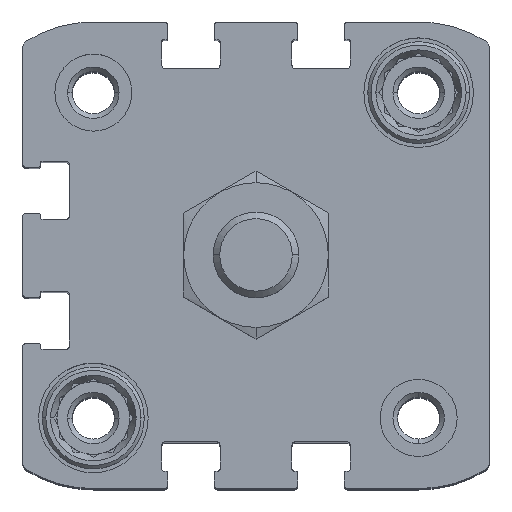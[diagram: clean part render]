
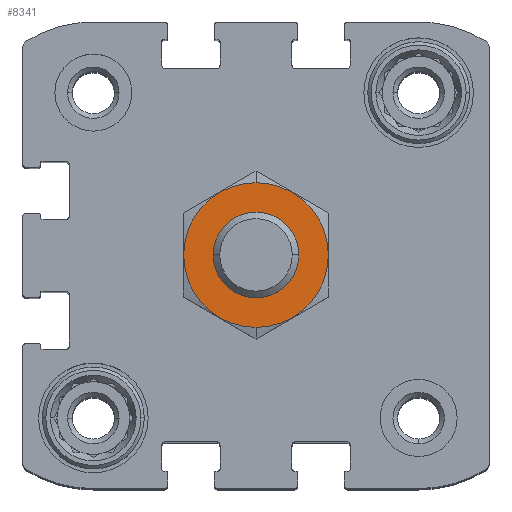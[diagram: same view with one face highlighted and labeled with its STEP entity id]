
A CAD part, top view. The second image highlights one B-rep face of the part: STEP entity #8341.
In plain terms, the highlighted planar face has unit normal (0, 0, 1).
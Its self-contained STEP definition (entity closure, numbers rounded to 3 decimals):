
#120 = FACE_OUTER_BOUND ( 'NONE', #10984, .T. ) ;
#198 = ORIENTED_EDGE ( 'NONE', *, *, #2175, .F. ) ;
#1475 = VERTEX_POINT ( 'NONE', #2073 ) ;
#1834 = EDGE_CURVE ( 'NONE', #2278, #5603, #12253, .T. ) ;
#2073 = CARTESIAN_POINT ( 'NONE',  ( 0., -8.45, 15.8 ) ) ;
#2175 = EDGE_CURVE ( 'NONE', #1475, #16411, #5668, .T. ) ;
#2248 = DIRECTION ( 'NONE',  ( 0., 1., 0. ) ) ;
#2278 = VERTEX_POINT ( 'NONE', #3177 ) ;
#2750 = DIRECTION ( 'NONE',  ( 0., 1., 0. ) ) ;
#3177 = CARTESIAN_POINT ( 'NONE',  ( 0., -5., 15.8 ) ) ;
#3284 = DIRECTION ( 'NONE',  ( 0., 1., 0. ) ) ;
#4367 = CARTESIAN_POINT ( 'NONE',  ( 0., 5., 15.8 ) ) ;
#4686 = AXIS2_PLACEMENT_3D ( 'NONE', #7429, #15240, #3284 ) ;
#5005 = DIRECTION ( 'NONE',  ( 0., 0., -1. ) ) ;
#5197 = EDGE_LOOP ( 'NONE', ( #13347, #13020 ) ) ;
#5603 = VERTEX_POINT ( 'NONE', #4367 ) ;
#5668 = CIRCLE ( 'NONE', #11270, 8.45 ) ;
#6287 = AXIS2_PLACEMENT_3D ( 'NONE', #10932, #8053, #2750 ) ;
#6622 = EDGE_CURVE ( 'NONE', #5603, #2278, #16954, .T. ) ;
#7429 = CARTESIAN_POINT ( 'NONE',  ( 0., 0., 15.8 ) ) ;
#8053 = DIRECTION ( 'NONE',  ( 0., 0., -1. ) ) ;
#8341 = ADVANCED_FACE ( 'NONE', ( #120, #16198 ), #10769, .F. ) ;
#8552 = AXIS2_PLACEMENT_3D ( 'NONE', #15719, #5005, #17287 ) ;
#8944 = DIRECTION ( 'NONE',  ( 0., 0., -1. ) ) ;
#9127 = CARTESIAN_POINT ( 'NONE',  ( 0., 0., 15.8 ) ) ;
#9438 = DIRECTION ( 'NONE',  ( 0., 0., -1. ) ) ;
#10678 = ORIENTED_EDGE ( 'NONE', *, *, #12571, .F. ) ;
#10769 = PLANE ( 'NONE',  #6287 ) ;
#10932 = CARTESIAN_POINT ( 'NONE',  ( 0., 0., 15.8 ) ) ;
#10984 = EDGE_LOOP ( 'NONE', ( #10678, #198 ) ) ;
#11270 = AXIS2_PLACEMENT_3D ( 'NONE', #12066, #9438, #16187 ) ;
#12066 = CARTESIAN_POINT ( 'NONE',  ( 0., 0., 15.8 ) ) ;
#12253 = CIRCLE ( 'NONE', #4686, 5. ) ;
#12571 = EDGE_CURVE ( 'NONE', #16411, #1475, #15483, .T. ) ;
#13020 = ORIENTED_EDGE ( 'NONE', *, *, #6622, .T. ) ;
#13347 = ORIENTED_EDGE ( 'NONE', *, *, #1834, .T. ) ;
#15193 = AXIS2_PLACEMENT_3D ( 'NONE', #9127, #8944, #2248 ) ;
#15240 = DIRECTION ( 'NONE',  ( 0., 0., -1. ) ) ;
#15483 = CIRCLE ( 'NONE', #15193, 8.45 ) ;
#15719 = CARTESIAN_POINT ( 'NONE',  ( 0., 0., 15.8 ) ) ;
#16086 = CARTESIAN_POINT ( 'NONE',  ( 0., 8.45, 15.8 ) ) ;
#16187 = DIRECTION ( 'NONE',  ( 0., 1., 0. ) ) ;
#16198 = FACE_BOUND ( 'NONE', #5197, .T. ) ;
#16411 = VERTEX_POINT ( 'NONE', #16086 ) ;
#16954 = CIRCLE ( 'NONE', #8552, 5. ) ;
#17287 = DIRECTION ( 'NONE',  ( 0., 1., 0. ) ) ;
